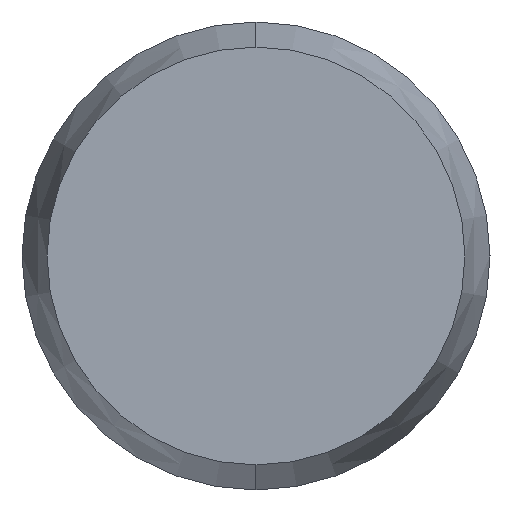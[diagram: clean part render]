
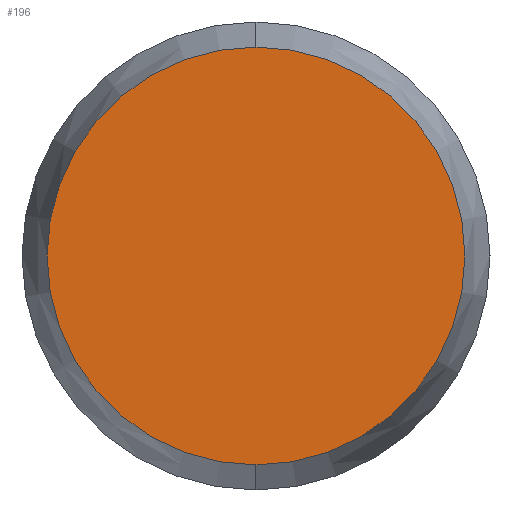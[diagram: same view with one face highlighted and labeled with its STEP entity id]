
A CAD part, left-side view. The second image highlights one B-rep face of the part: STEP entity #196.
In plain terms, the highlighted planar face has unit normal (-1, 0, 0).
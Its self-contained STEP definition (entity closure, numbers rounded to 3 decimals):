
#183 = EDGE_CURVE ( 'NONE', #184, #185, #249, .T. ) ;
#184 = VERTEX_POINT ( 'NONE', #244 ) ;
#185 = VERTEX_POINT ( 'NONE', #243 ) ;
#193 = ORIENTED_EDGE ( 'NONE', *, *, #199, .F. ) ;
#194 = ORIENTED_EDGE ( 'NONE', *, *, #183, .F. ) ;
#195 = EDGE_LOOP ( 'NONE', ( #194, #193 ) ) ;
#196 = ADVANCED_FACE ( 'NONE', ( #231 ), #230, .F. ) ;
#199 = EDGE_CURVE ( 'NONE', #185, #184, #229, .T. ) ;
#221 = DIRECTION ( 'NONE',  ( 0., 0., -1. ) ) ;
#222 = DIRECTION ( 'NONE',  ( 1., 0., 0. ) ) ;
#223 = CARTESIAN_POINT ( 'NONE',  ( -6., 0., 0. ) ) ;
#224 = AXIS2_PLACEMENT_3D ( 'NONE', #223, #222, #221 ) ;
#225 = DIRECTION ( 'NONE',  ( 0., 0., -1. ) ) ;
#226 = DIRECTION ( 'NONE',  ( 1., 0., 0. ) ) ;
#227 = CARTESIAN_POINT ( 'NONE',  ( -6., 0., 0. ) ) ;
#228 = AXIS2_PLACEMENT_3D ( 'NONE', #227, #226, #225 ) ;
#229 = CIRCLE ( 'NONE', #224, 0.893 ) ;
#230 = PLANE ( 'NONE',  #228 ) ;
#231 = FACE_OUTER_BOUND ( 'NONE', #195, .T. ) ;
#243 = CARTESIAN_POINT ( 'NONE',  ( -6., 0., -0.893 ) ) ;
#244 = CARTESIAN_POINT ( 'NONE',  ( -6., 0., 0.893 ) ) ;
#245 = DIRECTION ( 'NONE',  ( 0., 0., -1. ) ) ;
#246 = DIRECTION ( 'NONE',  ( 1., 0., 0. ) ) ;
#247 = CARTESIAN_POINT ( 'NONE',  ( -6., 0., 0. ) ) ;
#248 = AXIS2_PLACEMENT_3D ( 'NONE', #247, #246, #245 ) ;
#249 = CIRCLE ( 'NONE', #248, 0.893 ) ;
